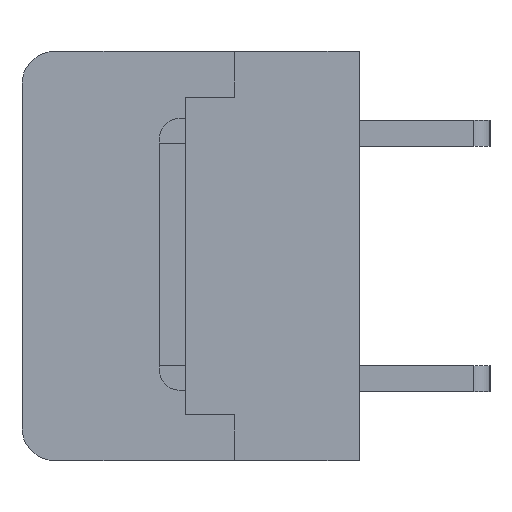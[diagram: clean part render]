
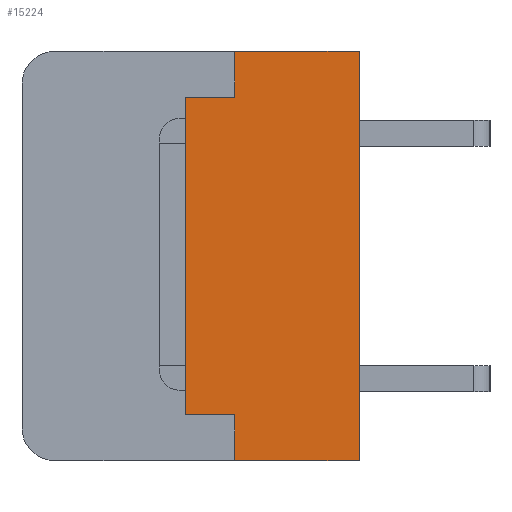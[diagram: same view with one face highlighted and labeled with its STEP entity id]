
A CAD part, left-side view. The second image highlights one B-rep face of the part: STEP entity #15224.
In plain terms, the highlighted planar face has unit normal (-1, 0, 0).
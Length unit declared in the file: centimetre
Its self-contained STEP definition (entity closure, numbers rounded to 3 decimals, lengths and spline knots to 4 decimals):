
#988=PLANE('',#24785);
#1706=VECTOR('',#16456,1.);
#1795=VECTOR('',#16601,1.);
#1809=VECTOR('',#16616,1.);
#2187=VECTOR('',#17450,1.);
#2377=VECTOR('',#17880,1.);
#2378=VECTOR('',#17881,1.);
#2379=VECTOR('',#17882,1.);
#2380=VECTOR('',#17883,1.);
#3354=LINE('',#20498,#1706);
#3443=LINE('',#20702,#1795);
#3457=LINE('',#20729,#1809);
#3835=LINE('',#21919,#2187);
#4025=LINE('',#22522,#2377);
#4026=LINE('',#22524,#2378);
#4027=LINE('',#22525,#2379);
#4028=LINE('',#22527,#2380);
#4936=VERTEX_POINT('',#20497);
#4937=VERTEX_POINT('',#20499);
#4995=VERTEX_POINT('',#20666);
#5012=VERTEX_POINT('',#20701);
#5024=VERTEX_POINT('',#20728);
#5025=VERTEX_POINT('',#20730);
#5560=VERTEX_POINT('',#22523);
#5561=VERTEX_POINT('',#22526);
#6889=EDGE_CURVE('',#4936,#4937,#3354,.T.);
#6990=EDGE_CURVE('',#5012,#4995,#3443,.T.);
#7004=EDGE_CURVE('',#5024,#5025,#3457,.T.);
#7552=EDGE_CURVE('',#4995,#5024,#3835,.T.);
#7830=EDGE_CURVE('',#5560,#5012,#4025,.T.);
#7831=EDGE_CURVE('',#4937,#5560,#4026,.T.);
#7832=EDGE_CURVE('',#5561,#4936,#4027,.T.);
#7833=EDGE_CURVE('',#5025,#5561,#4028,.T.);
#11751=ORIENTED_EDGE('',*,*,#7830,.F.);
#11752=ORIENTED_EDGE('',*,*,#7831,.F.);
#11753=ORIENTED_EDGE('',*,*,#6889,.F.);
#11754=ORIENTED_EDGE('',*,*,#7832,.F.);
#11755=ORIENTED_EDGE('',*,*,#7833,.F.);
#11756=ORIENTED_EDGE('',*,*,#7004,.F.);
#11757=ORIENTED_EDGE('',*,*,#7552,.F.);
#11758=ORIENTED_EDGE('',*,*,#6990,.F.);
#13461=EDGE_LOOP('',(#11751,#11752,#11753,#11754,#11755,#11756,#11757,#11758));
#14375=FACE_BOUND('',#13461,.T.);
#15224=ADVANCED_FACE('',(#14375),#988,.F.);
#16456=DIRECTION('',(0.,0.,1.));
#16601=DIRECTION('',(0.,-1.,0.));
#16616=DIRECTION('',(0.,1.,0.));
#17450=DIRECTION('',(0.,0.,-1.));
#17879=DIRECTION('',(1.,0.,0.));
#17880=DIRECTION('',(0.,0.,1.));
#17881=DIRECTION('',(0.,-1.,0.));
#17882=DIRECTION('',(0.,1.,0.));
#17883=DIRECTION('',(0.,0.,1.));
#20497=CARTESIAN_POINT('',(-1.382,0.53,-0.485));
#20498=CARTESIAN_POINT('',(-1.382,0.53,-0.485));
#20499=CARTESIAN_POINT('',(-1.382,0.53,0.485));
#20666=CARTESIAN_POINT('',(-1.382,0.,0.625));
#20701=CARTESIAN_POINT('',(-1.382,0.38,0.625));
#20702=CARTESIAN_POINT('',(-1.382,0.38,0.625));
#20728=CARTESIAN_POINT('',(-1.382,0.,-0.625));
#20729=CARTESIAN_POINT('',(-1.382,0.,-0.625));
#20730=CARTESIAN_POINT('',(-1.382,0.38,-0.625));
#21919=CARTESIAN_POINT('',(-1.382,0.,0.625));
#22521=CARTESIAN_POINT('',(-1.382,0.2532,0.));
#22522=CARTESIAN_POINT('',(-1.382,0.38,0.485));
#22523=CARTESIAN_POINT('',(-1.382,0.38,0.485));
#22524=CARTESIAN_POINT('',(-1.382,0.53,0.485));
#22525=CARTESIAN_POINT('',(-1.382,0.38,-0.485));
#22526=CARTESIAN_POINT('',(-1.382,0.38,-0.485));
#22527=CARTESIAN_POINT('',(-1.382,0.38,-0.625));
#24785=AXIS2_PLACEMENT_3D('',#22521,#17879,$);
